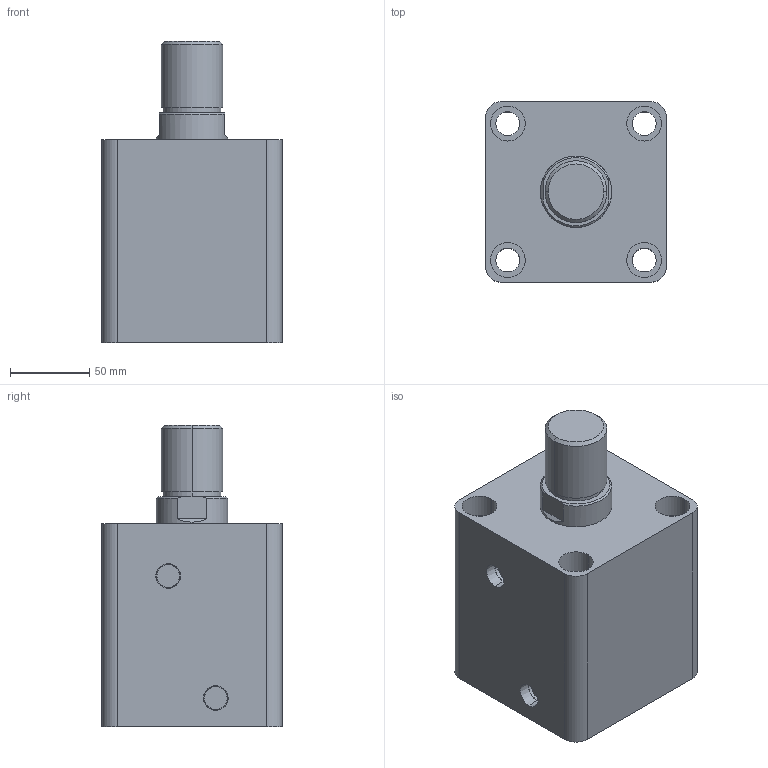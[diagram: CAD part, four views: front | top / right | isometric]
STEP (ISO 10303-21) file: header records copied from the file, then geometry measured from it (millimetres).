
FILE_DESCRIPTION (( 'STEP AP203' ), '1' );
FILE_NAME ('HTB-SD80-50W.STEP', '2019-10-07T08:26:44', ( '微软用户' ), ( '微软中国' ), 'SwSTEP 2.0', 'SolidWorks 2012', '' );
FILE_SCHEMA (( 'CONFIG_CONTROL_DESIGN' ));
Length unit declared in the file: millimetre
Products named in the file (3): HTB-SD80-50W; HTB-SD80-50W活塞杆; HTB-SD80-50掛极
Assembly tree (2 placements, depth 2):
  HTB-SD80-50W
    HTB-SD80-50掛极
    HTB-SD80-50W活塞杆
Bounding box: 114 x 114 x 190 mm (x, y, z)
Volume: 1441356.4 mm3; surface area: 177181.7 mm2
Topology: 2 solids, 2 shells, 87 faces, 190 edges, 124 vertices
Faces by surface type: cylinder 44, plane 29, cone 8, torus 6
Entity records: 2761 total; most frequent: DIRECTION 478, CARTESIAN_POINT 434, ORIENTED_EDGE 380, AXIS2_PLACEMENT_3D 204, EDGE_CURVE 190, VERTEX_POINT 124, EDGE_LOOP 112, CIRCLE 112
